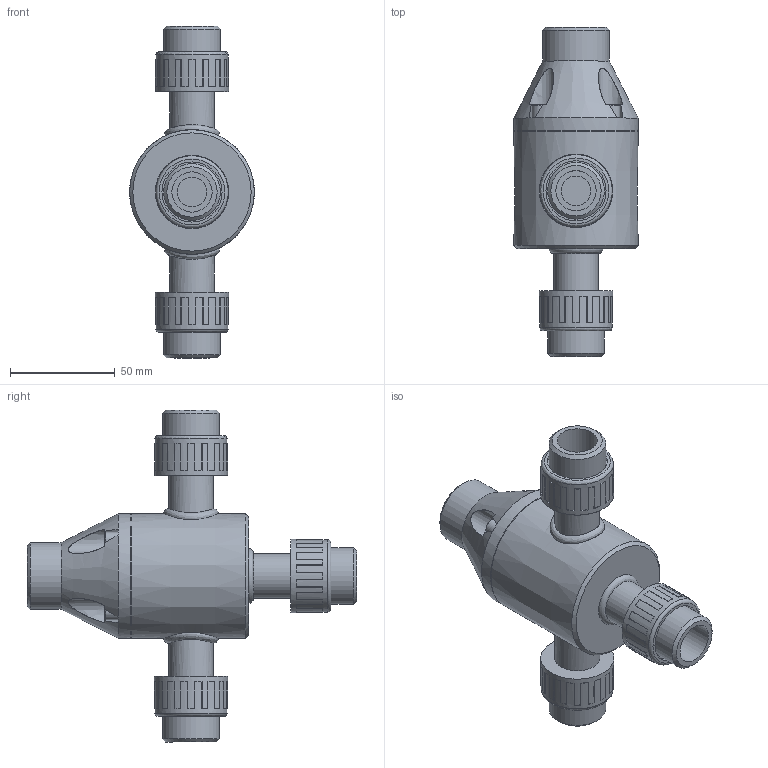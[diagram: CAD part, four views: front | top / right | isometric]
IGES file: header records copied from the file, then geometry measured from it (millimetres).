
Start section: SolidWorks IGES file using analytic representation for surfaces
Global section: file name: F:\Griffco-Valve\Griffco_current-projects\GV_web-files_2015\M Series Union\MPR0500-UNION.IGS; native system: SolidWorks 2014; preprocessor: SolidWorks 2014; author: Dan; date: 160914.032608; units: inch
Bounding box: 59.44 x 156.84 x 158.24 mm (x, y, z)
Surface area: 47266.4 mm2 (no closed solid volume)
Topology: 0 solids, 0 shells, 332 faces, 1699 edges, 1650 vertices
Faces by surface type: bspline 280, revolution 52
